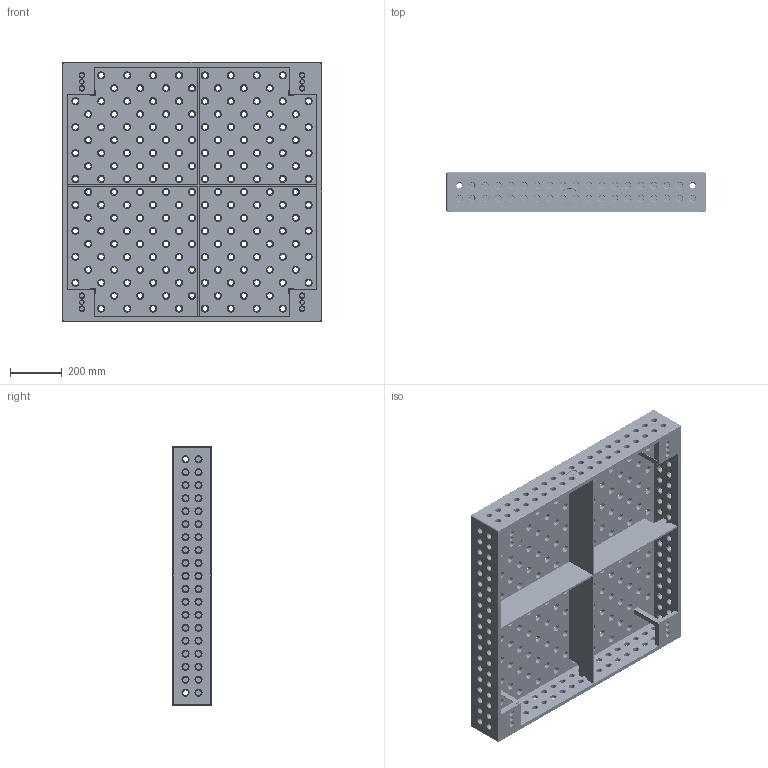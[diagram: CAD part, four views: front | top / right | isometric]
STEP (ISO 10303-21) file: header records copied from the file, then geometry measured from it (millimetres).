
FILE_DESCRIPTION (( 'STEP AP203' ), '1' );
FILE_NAME ('220010.D.STEP', '2021-04-12T12:07:25', ( '' ), ( '' ), 'SwSTEP 2.0', 'SolidWorks 2020', '' );
FILE_SCHEMA (( 'CONFIG_CONTROL_DESIGN' ));
Length unit declared in the file: millimetre
Products named in the file (1): 220010.D
Bounding box: 1000 x 150 x 1000 mm (x, y, z)
Volume: 27515215.3 mm3; surface area: 3800205.2 mm2
Topology: 1 solids, 1 shells, 2178 faces, 5148 edges, 2964 vertices
Faces by surface type: cone 718, cylinder 716, torus 670, plane 66, bspline 8
Entity records: 65547 total; most frequent: DIRECTION 12964, CARTESIAN_POINT 11531, ORIENTED_EDGE 10296, AXIS2_PLACEMENT_3D 5661, EDGE_CURVE 5148, CIRCLE 3490, VERTEX_POINT 2964, EDGE_LOOP 2884
